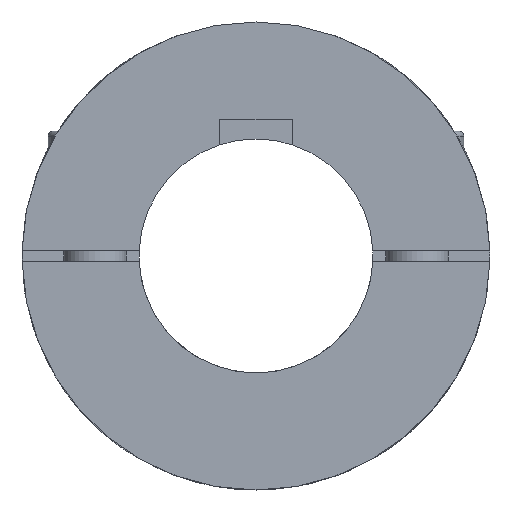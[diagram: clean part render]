
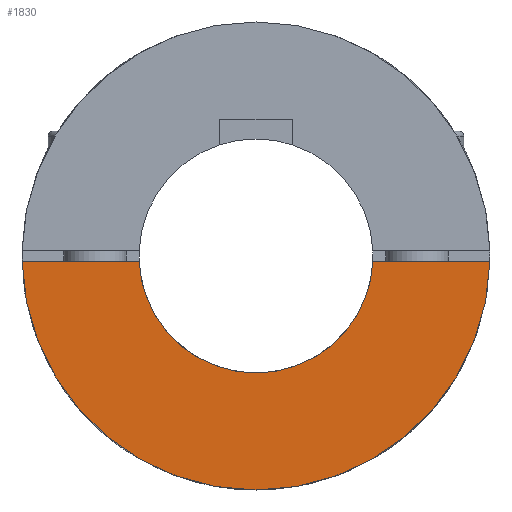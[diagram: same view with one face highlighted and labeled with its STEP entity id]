
A CAD part, left-side view. The second image highlights one B-rep face of the part: STEP entity #1830.
In plain terms, the highlighted planar face has unit normal (-1, 0, 0).
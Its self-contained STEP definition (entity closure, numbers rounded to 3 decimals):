
#35=PLANE('',#2063);
#191=LINE('',#3341,#334);
#201=LINE('',#3365,#344);
#334=VECTOR('',#2471,34.034);
#344=VECTOR('',#2499,34.034);
#498=FACE_OUTER_BOUND('',#620,.T.);
#620=EDGE_LOOP('',(#1529,#1530,#1531,#1532));
#797=CIRCLE('',#2039,22.5);
#801=CIRCLE('',#2064,45.);
#915=VERTEX_POINT('',#3291);
#916=VERTEX_POINT('',#3292);
#928=VERTEX_POINT('',#3339);
#933=VERTEX_POINT('',#3364);
#1127=EDGE_CURVE('',#915,#916,#797,.T.);
#1152=EDGE_CURVE('',#928,#916,#191,.T.);
#1164=EDGE_CURVE('',#933,#915,#201,.T.);
#1169=EDGE_CURVE('',#928,#933,#801,.T.);
#1529=ORIENTED_EDGE('',*,*,#1127,.T.);
#1530=ORIENTED_EDGE('',*,*,#1152,.F.);
#1531=ORIENTED_EDGE('',*,*,#1169,.T.);
#1532=ORIENTED_EDGE('',*,*,#1164,.T.);
#1830=ADVANCED_FACE('',(#498),#35,.T.);
#2039=AXIS2_PLACEMENT_3D('',#3293,#2422,#2423);
#2063=AXIS2_PLACEMENT_3D('',#3373,#2508,#2509);
#2064=AXIS2_PLACEMENT_3D('',#3374,#2510,#2511);
#2422=DIRECTION('center_axis',(1.,0.,0.));
#2423=DIRECTION('ref_axis',(0.,0.,1.));
#2471=DIRECTION('',(0.,-1.,0.));
#2499=DIRECTION('',(0.,1.,0.));
#2508=DIRECTION('center_axis',(-1.,0.,0.));
#2509=DIRECTION('ref_axis',(0.,-1.,0.));
#2510=DIRECTION('center_axis',(-1.,0.,0.));
#2511=DIRECTION('ref_axis',(0.,1.,0.));
#3291=CARTESIAN_POINT('',(0.,-22.478,-1.));
#3292=CARTESIAN_POINT('',(0.,22.478,-1.));
#3293=CARTESIAN_POINT('Origin',(0.,0.,0.));
#3339=CARTESIAN_POINT('',(0.,44.989,-1.));
#3341=CARTESIAN_POINT('',(0.,44.989,-1.));
#3364=CARTESIAN_POINT('',(0.,-44.989,-1.));
#3365=CARTESIAN_POINT('',(0.,-44.989,-1.));
#3373=CARTESIAN_POINT('Origin',(0.,0.,-11.));
#3374=CARTESIAN_POINT('Origin',(0.,0.,0.));
